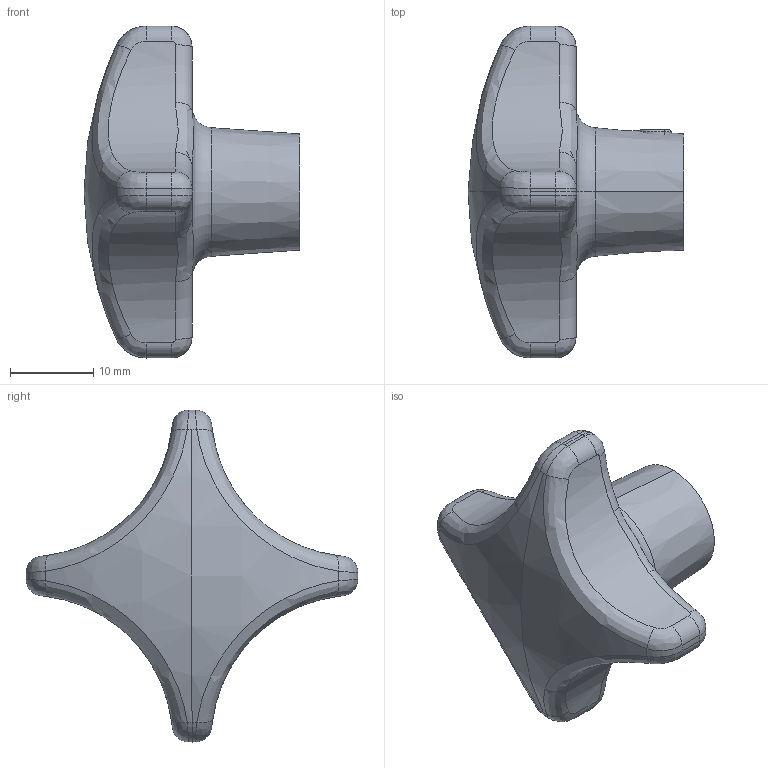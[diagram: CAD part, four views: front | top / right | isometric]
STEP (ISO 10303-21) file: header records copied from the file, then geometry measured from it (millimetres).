
FILE_DESCRIPTION (( 'STEP AP214' ), '1' );
FILE_NAME ('G-K9.STEP', '2019-02-27T13:47:10', ( '' ), ( '' ), 'SwSTEP 2.0', 'SolidWorks 2018', '' );
FILE_SCHEMA (( 'AUTOMOTIVE_DESIGN' ));
Length unit declared in the file: millimetre
Products named in the file (1): G-K9
Bounding box: 26 x 40 x 40 mm (x, y, z)
Volume: 8575.4 mm3; surface area: 3201.5 mm2
Topology: 2 solids, 2 shells, 109 faces, 260 edges, 154 vertices
Faces by surface type: plane 26, cylinder 25, bspline 24, torus 20, cone 12, sphere 2
Entity records: 6139 total; most frequent: CARTESIAN_POINT 2522, ORIENTED_EDGE 512, DIRECTION 489, EDGE_CURVE 256, AXIS2_PLACEMENT_3D 211, VERTEX_POINT 154, CIRCLE 125, EDGE_LOOP 114
